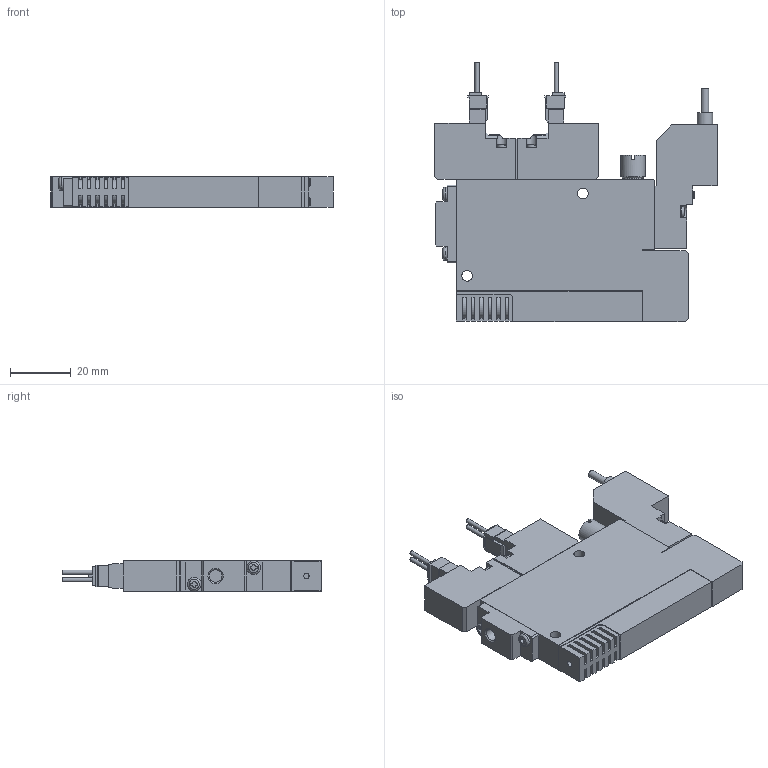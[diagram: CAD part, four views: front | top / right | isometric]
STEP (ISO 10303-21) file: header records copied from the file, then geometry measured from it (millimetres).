
FILE_DESCRIPTION(('STEP AP203'),'1');
FILE_NAME('5SS_3D.stp','2024-09-04T23:21:52',(' '),(' '),'Spatial InterOp 3D',' ',' ');
FILE_SCHEMA(('CONFIG_CONTROL_DESIGN'));
Length unit declared in the file: millimetre
Products named in the file (5): BSC1S※※V8※5SS; Solenoid valve S; Pressure Sensor V8; Unit-S; BaseSS10R
Assembly tree (4 placements, depth 2):
  BSC1S※※V8※5SS
    Solenoid valve S
    Pressure Sensor V8
    Unit-S
    BaseSS10R
Bounding box: 92.55 x 85.05 x 10 mm (x, y, z)
Volume: 46918.9 mm3; surface area: 19361.2 mm2
Topology: 4 solids, 4 shells, 488 faces, 1336 edges, 885 vertices
Faces by surface type: plane 370, cylinder 102, cone 6, torus 6, sphere 4
Full cylindrical faces by diameter (mm): 1.4 x4, 1.8 x1, 2.5 x3, 3 x4, 3.5 x6, 4.134 x3, 4.5 x2, 5 x1, 5.5 x1, 7 x1, 7.7 x1, 8 x1
Entity records: 15617 total; most frequent: CARTESIAN_POINT 3170, ORIENTED_EDGE 2550, DIRECTION 2419, EDGE_CURVE 1275, LINE 989, VECTOR 989, VERTEX_POINT 868, AXIS2_PLACEMENT_3D 715
